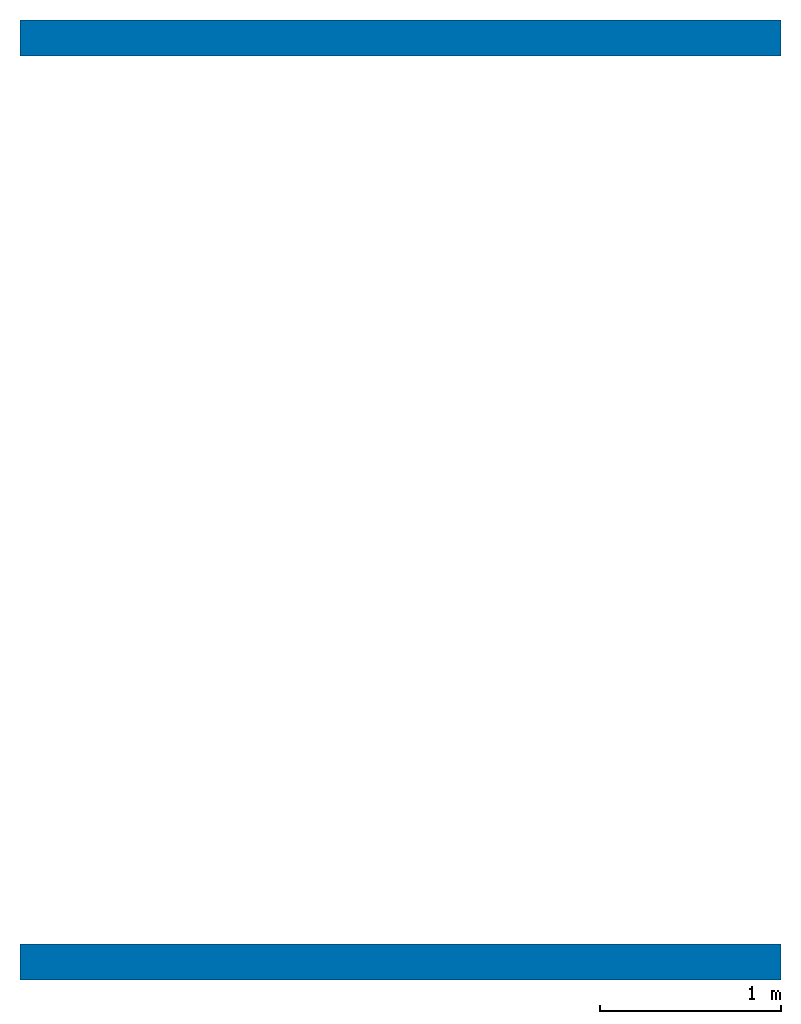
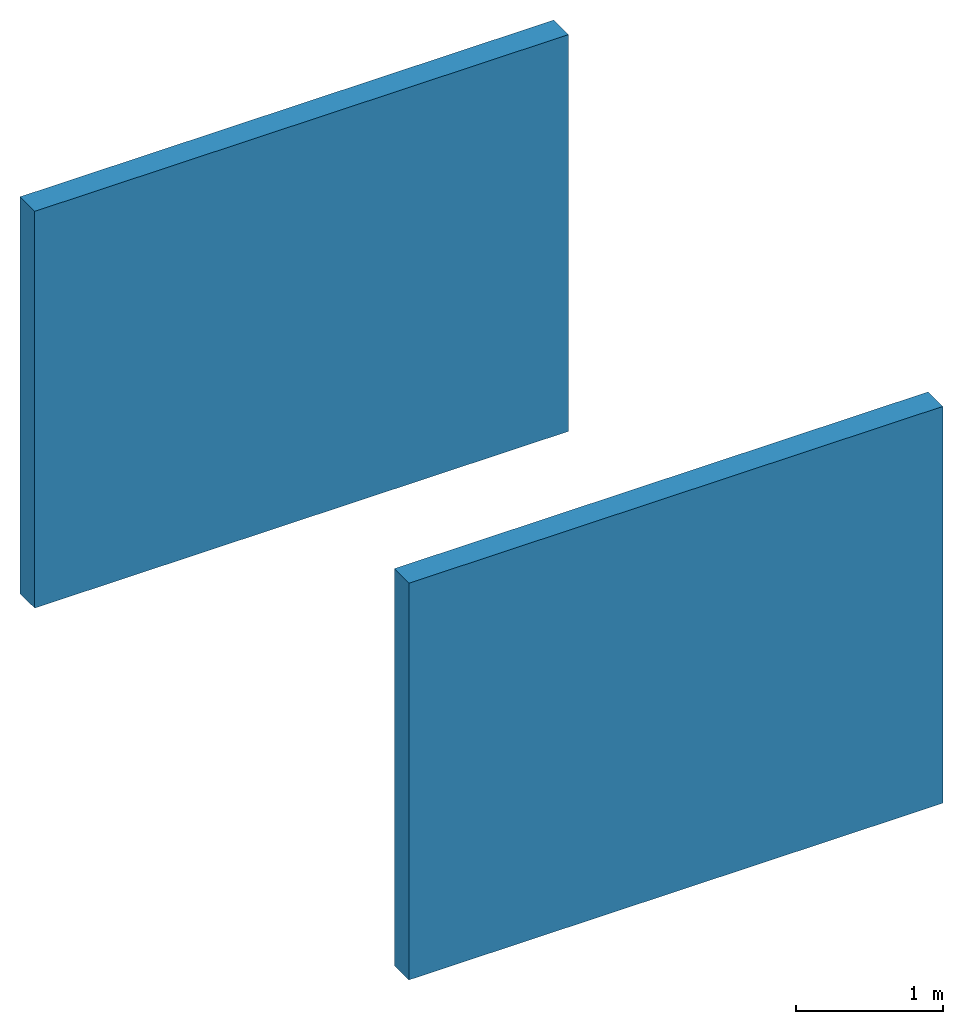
# One storey: 2 walls.
"""IFC4 building model written with IfcOpenShell, lengths in millimetres."""

from ifc_helpers import new_model, entity, si_unit, converted_unit, derived_unit, direction, frame, origin, place, context, subcontext, project, spatial, polygons, material, type_object, element, save


model = new_model("IFC4")

# Units and contexts
model_context = context("Model", 3, precision=0.01, world=origin(), true_north=direction((6.123031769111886e-17, 1.0)))
plan_context = context("Plan", 3, precision=0.01, world=origin(), true_north=direction((6.123031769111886e-17, 1.0)))
body_context = subcontext(model_context, "Body", "Model", "MODEL_VIEW")
ifc_project = project(units=[si_unit("LENGTHUNIT", "METRE", prefix="MILLI"), converted_unit("PLANEANGLEUNIT", "DEGREE", entity("IfcPlaneAngleMeasure", 0.017453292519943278), si_unit("PLANEANGLEUNIT", "RADIAN"), dimensions=[0, 0, 0, 0, 0, 0, 0]), si_unit("AREAUNIT", "SQUARE_METRE"), si_unit("VOLUMEUNIT", "CUBIC_METRE"), si_unit("POWERUNIT", "WATT"), derived_unit("USERDEFINED", [(si_unit("MASSUNIT", "GRAM", prefix="KILO"), 1), (si_unit("TIMEUNIT", "SECOND"), -3)])], contexts=[model_context, plan_context])

# Site, building, storey
site_placement = place(None, origin())
site = spatial("IfcSite", under=ifc_project, at=site_placement, Name="[ComplexCode]", CompositionType="ELEMENT")
building_placement = place(site_placement, origin())
building = spatial("IfcBuilding", under=site, at=building_placement, Name="[BouwwerkCode]", CompositionType="ELEMENT")
storey_placement = place(building_placement, frame((0.0, 0.0, -3300.0)))
storey = spatial("IfcBuildingStorey", under=building, at=storey_placement, Name="-1", CompositionType="ELEMENT", Elevation=-3300.0)

# Walls
ifc_material = material(Name="beton")
wall_type = type_object("IfcWallType", Name="Walls : Basic Wall : RBS_21_WA_wand_buiten_d=200", PredefinedType="STANDARD")
wall_1_placement = place(storey_placement, frame((2900.0, 7500.0, -300.0)))
element("IfcWall", 1, at=wall_1_placement, inside=storey, type_object=wall_type, material=ifc_material, Name="Walls : Basic Wall : RBS_21_WA_wand_buiten_d=200", ObjectType="wand", PredefinedType="NOTDEFINED", context=body_context, shape_type="Tessellation", body=[
    polygons([(3.697595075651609e-13, -100.0, 0.0), (4200.0, -99.99999999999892, 0.0), (4200.0, -99.99999999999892, 3300.0), (1.0656997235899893e-11, -100.0, 3300.0), (2.7731963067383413e-13, 99.99999999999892, 0.0), (2.7731963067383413e-13, 99.99999999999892, 3300.0), (4200.000000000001, 100.00000000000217, 3300.0), (4200.000000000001, 100.00000000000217, 0.0), (4200.000000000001, -3.0320279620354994e-11, 3300.0), (5.2822786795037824e-14, -4.4397552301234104e-11, 3300.0)], [[[1, 2, 3, 4]], [[5, 6, 7, 8]], [[2, 1, 5, 8]], [[3, 2, 8, 7, 9]], [[1, 4, 10, 6, 5]], [[9, 7, 6, 10]], [[4, 3, 9, 10]]], closed=True),
])
wall_2_placement = place(storey_placement, frame((7100.0, 2400.0, -300.0), z_axis=(0.0, 0.0, 1.0), x_axis=(-1.0, 0.0, 0.0)))
element("IfcWall", 2, at=wall_2_placement, inside=storey, type_object=wall_type, material=ifc_material, Name="Walls : Basic Wall : RBS_21_WA_wand_buiten_d=200", ObjectType="wand", PredefinedType="NOTDEFINED", context=body_context, shape_type="Tessellation", body=[
    polygons([(3.391222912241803e-11, -100.00000000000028, 0.0), (4200.0000000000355, -100.0, 0.0), (4200.0000000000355, -100.0, 3300.0), (1.117201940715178e-11, -100.00000000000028, 3300.0), (3.32783556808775e-11, 100.0, 0.0), (3.32783556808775e-11, 100.0, 3300.0), (4200.000000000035, 99.99999999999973, 3300.0), (4200.000000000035, 99.99999999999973, 0.0), (4200.000000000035, 1.3265122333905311e-11, 3300.0), (3.3595292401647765e-11, 0.0, 3300.0)], [[[1, 2, 3, 4]], [[5, 6, 7, 8]], [[2, 1, 5, 8]], [[3, 2, 8, 7, 9]], [[1, 4, 10, 6, 5]], [[9, 7, 6, 10]], [[4, 3, 9, 10]]], closed=True),
])

save(model, "model.ifc")
